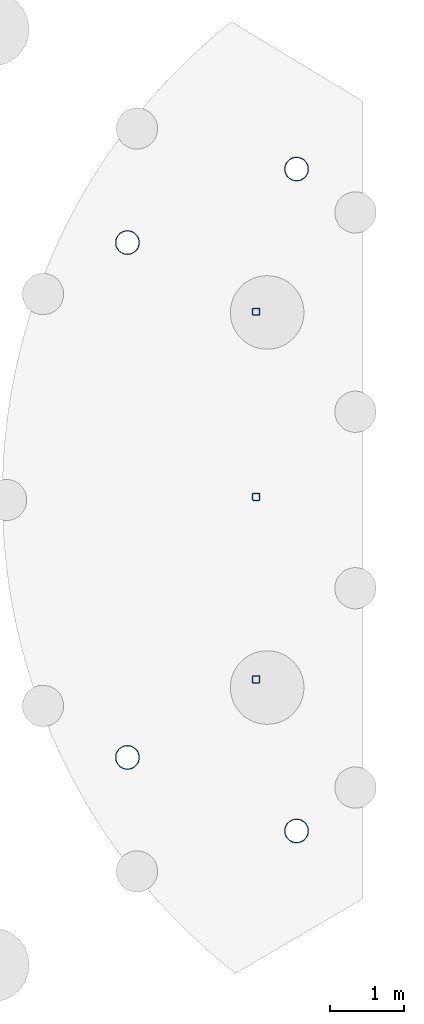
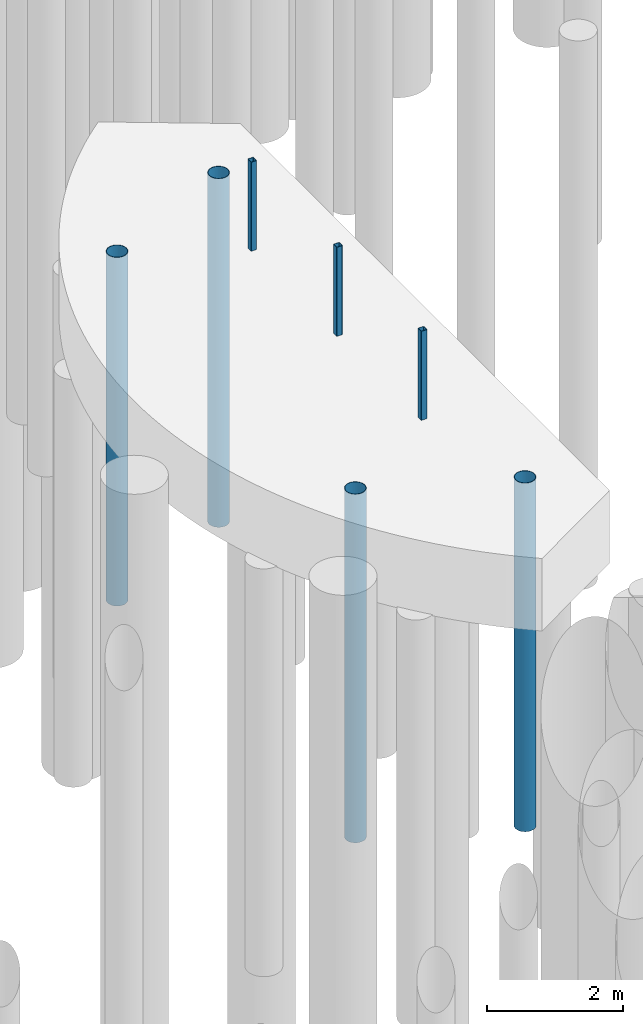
# One storey, part 9 of 104: 7 columns.
"""IFC2X3 building model written with IfcOpenShell, lengths in millimetres."""

import ifcopenshell
import ifcopenshell.guid

model = None  # the IFC model being written
_history = None  # IfcOwnerHistory: only IFC2X3 demands one
_inside = {}  # id of a spatial element -> (the spatial element, [elements in it])
_under = {}  # id of a project, library or spatial element -> (it, [spatial elements below it])
_declared = {}  # id of a project -> (the project, [libraries it declares])
_typed = {}  # id of a type object -> (the type object, [elements of that type])
_made_of = {}  # id of a material, layer set ... -> (it, [elements and type objects made of it])


def new_model(schema):
    """Start an empty IFC model of exactly this schema.

    Asked for "IFC4X3", IfcOpenShell would pick the latest addendum, in which some entities
    have other attributes; the version numbers below select the first issue.
    IFC2X3 requires an IfcOwnerHistory on every rooted entity: one is made here for all.
    """
    global model, _history
    if schema == "IFC4X3":
        model = ifcopenshell.file(schema_version=(4, 3, 0, 0))
    else:
        model = ifcopenshell.file(schema=schema)
    _inside.clear()
    _under.clear()
    _declared.clear()
    _typed.clear()
    _made_of.clear()
    _history = None
    if model.schema == "IFC2X3":
        org = make("IfcOrganization", Name="unknown")
        user = make(
            "IfcPersonAndOrganization",
            ThePerson=make("IfcPerson", FamilyName="unknown"),
            TheOrganization=org,
        )
        app = make(
            "IfcApplication",
            ApplicationDeveloper=org,
            Version="unknown",
            ApplicationFullName="unknown",
            ApplicationIdentifier="unknown",
        )
        _history = make(
            "IfcOwnerHistory",
            OwningUser=user,
            OwningApplication=app,
            ChangeAction="ADDED",
            CreationDate=0,
        )
    return model


def make(cls, **values):
    """One entity of the class cls with the attributes given. An attribute that is None is left unset."""
    return model.create_entity(
        cls, **{name: value for name, value in values.items() if value is not None}
    )


def entity(cls, *values):
    """Any entity or typed value of the class cls, its attributes in the order of the schema. None: left unset."""
    e = model.create_entity(cls)
    for i, value in enumerate(values):
        if value is not None:
            e[i] = value
    return e


def rooted(cls, **values):
    """An entity with a GlobalId (a new one), such as an element, a storey or a relation."""
    return make(cls, GlobalId=ifcopenshell.guid.new(), OwnerHistory=_history, **values)


def si_unit(unit_type, name, prefix=None):
    """IfcSIUnit, for example si_unit("LENGTHUNIT", "METRE", prefix="MILLI")."""
    return make("IfcSIUnit", UnitType=unit_type, Prefix=prefix, Name=name)


def converted_unit(unit_type, name, factor, base, dimensions=None, offset=None):
    """IfcConversionBasedUnit, such as the inch: factor (a typed value) times the base unit."""
    return make(
        "IfcConversionBasedUnit"
        if offset is None
        else "IfcConversionBasedUnitWithOffset",
        ConversionOffset=offset,
        Dimensions=None
        if dimensions is None
        else entity("IfcDimensionalExponents", *dimensions),
        UnitType=unit_type,
        Name=name,
        ConversionFactor=make(
            "IfcMeasureWithUnit", ValueComponent=factor, UnitComponent=base
        ),
    )


def derived_unit(unit_type, elements):
    """IfcDerivedUnit: a product of units, each with its exponent."""
    return make(
        "IfcDerivedUnit",
        Elements=[
            make("IfcDerivedUnitElement", Unit=unit, Exponent=power)
            for unit, power in elements
        ],
        UnitType=unit_type,
    )


def assignment(units):
    """IfcUnitAssignment: the units of a project."""
    return None if units is None else make("IfcUnitAssignment", Units=units)


def point(xyz):
    """IfcCartesianPoint."""
    return None if xyz is None else make("IfcCartesianPoint", Coordinates=xyz)


def direction(xyz):
    """IfcDirection."""
    return None if xyz is None else make("IfcDirection", DirectionRatios=xyz)


def frame(location, z_axis=None, x_axis=None):
    """IfcAxis2Placement3D, a coordinate frame: its origin and axes. An axis left out is left unset."""
    return make(
        "IfcAxis2Placement3D",
        Location=point(location),
        Axis=direction(z_axis),
        RefDirection=direction(x_axis),
    )


def frame_2d(location, x_axis=None):
    """IfcAxis2Placement2D, a coordinate frame in the plane: its origin and x axis."""
    return make(
        "IfcAxis2Placement2D", Location=point(location), RefDirection=direction(x_axis)
    )


def origin():
    """The frame at (0, 0, 0) with its axes left unset."""
    return frame((0.0, 0.0, 0.0))


def place(relative_to, where):
    """IfcLocalPlacement: puts the frame where relative to a parent placement (None: the world)."""
    return make(
        "IfcLocalPlacement", PlacementRelTo=relative_to, RelativePlacement=where
    )


def context(
    kind, dimensions, precision=None, world=None, true_north=None, identifier=None
):
    """IfcGeometricRepresentationContext, for example the 3D "Model" context."""
    return make(
        "IfcGeometricRepresentationContext",
        ContextIdentifier=identifier,
        ContextType=kind,
        CoordinateSpaceDimension=dimensions,
        Precision=precision,
        WorldCoordinateSystem=world,
        TrueNorth=true_north,
    )


def subcontext(parent, identifier, kind, view, scale=None):
    """IfcGeometricRepresentationSubContext, for example "Body" below "Model"."""
    return make(
        "IfcGeometricRepresentationSubContext",
        ContextIdentifier=identifier,
        ContextType=kind,
        ParentContext=parent,
        TargetScale=scale,
        TargetView=view,
    )


def project(units=None, contexts=None):
    """IfcProject with its units and contexts."""
    return rooted(
        "IfcProject",
        Name="project",
        RepresentationContexts=contexts,
        UnitsInContext=assignment(units),
    )


def spatial(cls, under=None, at=None, **own):
    """A site, building, storey or space (cls), placed at a placement, below another one or the project."""
    s = rooted(cls, ObjectPlacement=at, **own)
    if under is not None:
        _under.setdefault(under.id(), (under, []))[1].append(s)
    return s


def polyline(points):
    """IfcPolyline through the points."""
    return make("IfcPolyline", Points=[point(p) for p in points])


def circle_curve(where, radius):
    """IfcCircle in the frame where."""
    return make("IfcCircle", Position=where, Radius=radius)


def parameter(value):
    """IfcParameterValue: where a trimmed curve begins or ends, as a parameter of its basis curve."""
    return model.create_entity("IfcParameterValue", value)


def trimmed(basis, trim1, trim2, sense, master):
    """IfcTrimmedCurve: the piece of a basis curve between two trims."""
    return make(
        "IfcTrimmedCurve",
        BasisCurve=basis,
        Trim1=trim1,
        Trim2=trim2,
        SenseAgreement=sense,
        MasterRepresentation=master,
    )


def segment(curve, same_sense, transition):
    """IfcCompositeCurveSegment."""
    return make(
        "IfcCompositeCurveSegment",
        Transition=transition,
        SameSense=same_sense,
        ParentCurve=curve,
    )


def composite_curve(segments, self_intersect=None):
    """IfcCompositeCurve: segments joined end to end."""
    return make("IfcCompositeCurve", Segments=segments, SelfIntersect=self_intersect)


def profile(cls, at=None, kind="AREA", **sizes):
    """A parametric profile (cls). Its sizes go by their IFC names, for example OverallWidth=200.0."""
    return make(cls, ProfileType=kind, Position=at, **sizes)


def hollow_circle(**sizes):
    """IfcCircleHollowProfileDef."""
    return profile("IfcCircleHollowProfileDef", **sizes)


def outline(outer, holes=None, kind="AREA"):
    """IfcArbitraryClosedProfileDef: a profile drawn as a closed curve; with holes, ...WithVoids."""
    if holes is None:
        return make("IfcArbitraryClosedProfileDef", ProfileType=kind, OuterCurve=outer)
    return make(
        "IfcArbitraryProfileDefWithVoids",
        ProfileType=kind,
        OuterCurve=outer,
        InnerCurves=holes,
    )


def extrude(swept, where, along, depth):
    """IfcExtrudedAreaSolid: the profile swept, set in the frame where, extruded along a direction by depth."""
    return make(
        "IfcExtrudedAreaSolid",
        SweptArea=swept,
        Position=where,
        ExtrudedDirection=direction(along),
        Depth=depth,
    )


def shape(context_of_items, identifier, shape_type, items):
    """IfcShapeRepresentation: the items that make up one representation, for example the "Body"."""
    return make(
        "IfcShapeRepresentation",
        ContextOfItems=context_of_items,
        RepresentationIdentifier=identifier,
        RepresentationType=shape_type,
        Items=items,
    )


def source(mapping_origin, context_of_items, identifier, shape_type, items):
    """IfcRepresentationMap: a shape defined once, which mapped items show again and again."""
    return make(
        "IfcRepresentationMap",
        MappingOrigin=mapping_origin,
        MappedRepresentation=shape(context_of_items, identifier, shape_type, items),
    )


def transform(
    local_origin,
    x_axis=None,
    y_axis=None,
    z_axis=None,
    scale=None,
    scale2=None,
    scale3=None,
    uniform=True,
):
    """IfcCartesianTransformationOperator3D, or its non-uniform kind. x_axis, y_axis, z_axis: its Axis1, 2, 3."""
    if uniform:
        return make(
            "IfcCartesianTransformationOperator3D",
            Axis1=direction(x_axis),
            Axis2=direction(y_axis),
            LocalOrigin=point(local_origin),
            Scale=scale,
            Axis3=direction(z_axis),
        )
    return make(
        "IfcCartesianTransformationOperator3DnonUniform",
        Axis1=direction(x_axis),
        Axis2=direction(y_axis),
        LocalOrigin=point(local_origin),
        Scale=scale,
        Axis3=direction(z_axis),
        Scale2=scale2,
        Scale3=scale3,
    )


def mapped(mapping_source, mapping_target):
    """IfcMappedItem: shows the shape of a source again, moved by a transform."""
    return make(
        "IfcMappedItem", MappingSource=mapping_source, MappingTarget=mapping_target
    )


def material(Name=None, Category=None):
    """IfcMaterial."""
    return make("IfcMaterial", Name=Name, Category=Category)


def made_of(thing, what):
    """Note that an element or type object is made of a material, layer set ...; save() writes the relation."""
    if what is not None:
        _made_of.setdefault(what.id(), (what, []))[1].append(thing)
    return thing


def type_object(cls, material=None, **own):
    """A type object (cls), such as IfcWallType, which elements share."""
    return made_of(rooted(cls, **own), material)


def type_shapes(of_type, sources):
    """Give a type object the sources (RepresentationMaps) that its elements show as mapped items."""
    of_type.RepresentationMaps = sources


def element(
    cls,
    number,
    at=None,
    inside=None,
    cuts=None,
    type_object=None,
    material=None,
    context=None,
    identifier="Body",
    shape_type=None,
    held_by="IfcProductDefinitionShape",
    body=None,
    shapes=None,
    **own,
):
    """One element of the class cls, such as IfcWall. Its Tag is "e" and its number.

    at: its placement. inside: the storey or other place that contains it. cuts: it is an
    opening in that element (IfcRelVoidsElement). A single representation is given by context,
    identifier, shape_type and body (its items); several are given by shapes. held_by: the class
    of the entity that holds the representations. save() writes the other relations.
    """
    e = rooted(cls, Tag="e%d" % number, ObjectPlacement=at, **own)
    if body is not None:
        shapes = [shape(context, identifier, shape_type, body)]
    if shapes is not None:
        e.Representation = make(held_by, Representations=shapes)
    if inside is not None:
        _inside.setdefault(inside.id(), (inside, []))[1].append(e)
    if cuts is not None:
        rooted(
            "IfcRelVoidsElement", RelatingBuildingElement=cuts, RelatedOpeningElement=e
        )
    if type_object is not None:
        _typed.setdefault(type_object.id(), (type_object, []))[1].append(e)
    return made_of(e, material)


def aggregate(whole, parts):
    """IfcRelAggregates: a whole, such as a stair, and the parts it consists of."""
    return rooted("IfcRelAggregates", RelatingObject=whole, RelatedObjects=parts)


def save(model, path):
    """Write the relations noted so far, then the file.

    IfcRelAggregates (storeys below a building ...), IfcRelContainedInSpatialStructure (elements
    in a storey), IfcRelDefinesByType, IfcRelAssociatesMaterial and IfcRelDeclares: one each for
    every whole, place, type object, material and project.
    """
    for whole, parts in _under.values():
        aggregate(whole, parts)
    for where, things in _inside.values():
        rooted(
            "IfcRelContainedInSpatialStructure",
            RelatedElements=things,
            RelatingStructure=where,
        )
    for kind, things in _typed.values():
        rooted("IfcRelDefinesByType", RelatedObjects=things, RelatingType=kind)
    for what, things in _made_of.values():
        rooted("IfcRelAssociatesMaterial", RelatedObjects=things, RelatingMaterial=what)
    for by, libraries in _declared.values():
        rooted("IfcRelDeclares", RelatingContext=by, RelatedDefinitions=libraries)
    model.write(path)


model = new_model("IFC2X3")

# Units and contexts
model_context = context("Model", 3, precision=0.01, world=origin(), true_north=direction((6.12303176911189e-17, 1.0)))
body_context = subcontext(model_context, "Body", "Model", "MODEL_VIEW")
ifc_project = project(units=[si_unit("LENGTHUNIT", "METRE", prefix="MILLI"), si_unit("AREAUNIT", "SQUARE_METRE", prefix="MILLI"), si_unit("VOLUMEUNIT", "CUBIC_METRE"), converted_unit("PLANEANGLEUNIT", "DEGREE", entity("IfcRatioMeasure", 0.0174532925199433), si_unit("PLANEANGLEUNIT", "RADIAN"), dimensions=[0, 0, 0, 0, 0, 0, 0]), si_unit("MASSUNIT", "GRAM", prefix="KILO"), derived_unit("MASSDENSITYUNIT", [(si_unit("MASSUNIT", "GRAM", prefix="KILO"), 1), (si_unit("LENGTHUNIT", "METRE"), -3)]), derived_unit("MOMENTOFINERTIAUNIT", [(si_unit("LENGTHUNIT", "METRE"), 4)]), si_unit("TIMEUNIT", "SECOND"), si_unit("FREQUENCYUNIT", "HERTZ"), si_unit("THERMODYNAMICTEMPERATUREUNIT", "DEGREE_CELSIUS"), derived_unit("THERMALTRANSMITTANCEUNIT", [(si_unit("MASSUNIT", "GRAM", prefix="KILO"), 1), (si_unit("THERMODYNAMICTEMPERATUREUNIT", "KELVIN"), -1), (si_unit("TIMEUNIT", "SECOND"), -3)]), derived_unit("VOLUMETRICFLOWRATEUNIT", [(si_unit("LENGTHUNIT", "METRE"), 3), (si_unit("TIMEUNIT", "SECOND"), -1)]), si_unit("ELECTRICCURRENTUNIT", "AMPERE"), si_unit("ELECTRICVOLTAGEUNIT", "VOLT"), si_unit("POWERUNIT", "WATT"), si_unit("FORCEUNIT", "NEWTON", prefix="KILO"), si_unit("ILLUMINANCEUNIT", "LUX"), si_unit("LUMINOUSFLUXUNIT", "LUMEN"), si_unit("LUMINOUSINTENSITYUNIT", "CANDELA"), derived_unit("USERDEFINED", [(si_unit("MASSUNIT", "GRAM", prefix="KILO"), -1), (si_unit("LENGTHUNIT", "METRE"), -2), (si_unit("TIMEUNIT", "SECOND"), 3), (si_unit("LUMINOUSFLUXUNIT", "LUMEN"), 1)]), derived_unit("LINEARVELOCITYUNIT", [(si_unit("LENGTHUNIT", "METRE"), 1), (si_unit("TIMEUNIT", "SECOND"), -1)]), si_unit("PRESSUREUNIT", "PASCAL"), derived_unit("USERDEFINED", [(si_unit("LENGTHUNIT", "METRE"), -2), (si_unit("MASSUNIT", "GRAM", prefix="KILO"), 1), (si_unit("TIMEUNIT", "SECOND"), -2)]), derived_unit("LINEARFORCEUNIT", [(si_unit("MASSUNIT", "GRAM", prefix="KILO"), 1), (si_unit("LENGTHUNIT", "METRE"), 1), (si_unit("TIMEUNIT", "SECOND"), -2), (si_unit("LENGTHUNIT", "METRE"), -1)]), derived_unit("PLANARFORCEUNIT", [(si_unit("MASSUNIT", "GRAM", prefix="KILO"), 1), (si_unit("LENGTHUNIT", "METRE"), 1), (si_unit("TIMEUNIT", "SECOND"), -2), (si_unit("LENGTHUNIT", "METRE"), -2)])], contexts=[model_context])

# Site, building, storey
site_placement = place(None, origin())
site = spatial("IfcSite", under=ifc_project, at=site_placement, Name="Theater aan de Parade", CompositionType="ELEMENT")
building_placement = place(site_placement, origin())
building = spatial("IfcBuilding", under=site, at=building_placement, Name="Theater aan de Parade", CompositionType="ELEMENT")
storey_placement = place(building_placement, frame((0.0, 0.0, -5520.0)))
storey = spatial("IfcBuildingStorey", under=building, at=storey_placement, Name="-2 kelder", CompositionType="ELEMENT", Elevation=-5520.0)

# Columns
ifc_material_1 = material(Name="00_PBT_MAT_staal")
column_type_1 = type_object("IfcColumnType", Name="28_PBT_SC_staal_buis:B323.9x7.1_bestaand", PredefinedType="COLUMN", material=ifc_material_1)
shared_shape_1 = source(origin(), body_context, "Body", "SweptSolid", [
    extrude(hollow_circle(Radius=161.95, WallThickness=7.09999999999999, at=frame_2d((1.77837538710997e-15, -2.97621380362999e-13), x_axis=(1.0, 0.0))), frame((0.0, 0.0, -10770.0), z_axis=(0.0, 0.0, 1.0), x_axis=(-1.0, 0.0, 0.0)), (0.0, 0.0, 1.0), 6250.0),
])
type_shapes(column_type_1, [shared_shape_1])
for number, where, name in (
    (1, (68120.0, 36910.0, 5520.0), "28_PBT_SC_staal_buis:B323.9x7.1_bestaand"),
    (2, (65820.0, 35910.0, 5520.0), "28_PBT_SC_staal_buis:B323.9x7.1_bestaand"),
    (3, (65820.0, 28910.0, 5520.0), "28_PBT_SC_staal_buis:B323.9x7.1_bestaand"),
    (4, (68120.0, 27910.0, 5520.0), "28_PBT_SC_staal_buis:B323.9x7.1_bestaand"),
):
    element("IfcColumn", number, at=place(storey_placement, frame(where)), inside=storey, type_object=column_type_1, material=ifc_material_1, Name=name, ObjectType="28_PBT_SC_staal_buis:B323.9x7.1_bestaand", context=body_context, shape_type="MappedRepresentation", body=[
        mapped(shared_shape_1, transform((0.0, 0.0, 0.0), scale=1.0)),
    ])
ifc_material_2 = material(Name="00_PBT_MAT_staal_S355")
column_type_2 = type_object("IfcColumnType", Name="28_PBT_SC_staal_koker:S355_K100x100x6.3", PredefinedType="COLUMN", material=ifc_material_2)
shared_shape_2 = source(origin(), body_context, "Body", "SweptSolid", [
    extrude(outline(composite_curve([segment(trimmed(circle_curve(frame_2d((-40.5500000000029, -40.5499999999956), x_axis=(1.0, 0.0)), 9.45), [parameter(180.0)], [parameter(270.0)], True, "PARAMETER"), True, "CONTINUOUS"), segment(polyline([(-40.5500000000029, -50.0), (40.5500000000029, -50.0)]), True, "CONTINUOUS"), segment(trimmed(circle_curve(frame_2d((40.5500000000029, -40.5499999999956), x_axis=(1.0, 0.0)), 9.45), [parameter(270.0)], [parameter(0.0)], True, "PARAMETER"), True, "CONTINUOUS"), segment(polyline([(50.0, -40.5499999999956), (50.0, 40.5500000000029)]), True, "CONTINUOUS"), segment(trimmed(circle_curve(frame_2d((40.5500000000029, 40.5500000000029), x_axis=(1.0, 0.0)), 9.45), [parameter(3.56222124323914e-13)], [parameter(90.0000000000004)], True, "PARAMETER"), True, "CONTINUOUS"), segment(polyline([(40.5500000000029, 50.0), (-40.5500000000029, 50.0)]), True, "CONTINUOUS"), segment(trimmed(circle_curve(frame_2d((-40.5500000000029, 40.5500000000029), x_axis=(1.0, 0.0)), 9.45), [parameter(90.0)], [parameter(180.0)], True, "PARAMETER"), True, "CONTINUOUS"), segment(polyline([(-50.0, 40.5500000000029), (-50.0, -40.5499999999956)]), True, "CONTINUOUS")], self_intersect=False), holes=[composite_curve([segment(trimmed(circle_curve(frame_2d((37.4000000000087, 37.4000000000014), x_axis=(1.0, 0.0)), 6.3), [parameter(0.0)], [parameter(90.0000000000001)], True, "PARAMETER"), False, "CONTINUOUS"), segment(polyline([(43.6999999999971, 37.4000000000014), (43.6999999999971, -37.4000000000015)]), True, "CONTINUOUS"), segment(trimmed(circle_curve(frame_2d((37.4000000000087, -37.4000000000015), x_axis=(1.0, 0.0)), 6.3), [parameter(270.0)], [parameter(360.0)], True, "PARAMETER"), False, "CONTINUOUS"), segment(polyline([(37.4000000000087, -43.6999999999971), (-37.3999999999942, -43.6999999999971)]), True, "CONTINUOUS"), segment(trimmed(circle_curve(frame_2d((-37.3999999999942, -37.4000000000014), x_axis=(1.0, 0.0)), 6.3), [parameter(180.0)], [parameter(270.0)], True, "PARAMETER"), False, "CONTINUOUS"), segment(polyline([(-43.6999999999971, -37.4000000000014), (-43.6999999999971, 37.4000000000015)]), True, "CONTINUOUS"), segment(trimmed(circle_curve(frame_2d((-37.3999999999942, 37.4000000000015), x_axis=(1.0, 0.0)), 6.3), [parameter(89.9999999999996)], [parameter(180.0)], True, "PARAMETER"), False, "CONTINUOUS"), segment(polyline([(-37.3999999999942, 43.6999999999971), (37.4000000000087, 43.6999999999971)]), True, "CONTINUOUS")], self_intersect=False)]), frame((67570.0, 34970.0, -4520.0), z_axis=(0.0, 0.0, 1.0), x_axis=(-1.0, 0.0, 0.0)), (0.0, 0.0, 1.0), 1597.0),
])
type_shapes(column_type_2, [shared_shape_2])
column_1_placement = place(storey_placement, frame((0.0, 0.0, 5520.0)))
element("IfcColumn", 5, at=column_1_placement, inside=storey, type_object=column_type_2, material=ifc_material_2, Name="28_PBT_SC_staal_koker:S355_K100x100x6.3", ObjectType="28_PBT_SC_staal_koker:S355_K100x100x6.3", context=body_context, shape_type="MappedRepresentation", body=[
    mapped(shared_shape_2, transform((0.0, 0.0, 0.0), scale=1.0)),
])
column_type_3 = type_object("IfcColumnType", Name="28_PBT_SC_staal_koker:S355_K100x100x6.3", PredefinedType="COLUMN", material=ifc_material_2)
shared_shape_3 = source(origin(), body_context, "Body", "SweptSolid", [
    extrude(outline(composite_curve([segment(trimmed(circle_curve(frame_2d((-40.5500000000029, -40.5500000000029), x_axis=(1.0, 0.0)), 9.45), [parameter(180.0)], [parameter(270.0)], True, "PARAMETER"), True, "CONTINUOUS"), segment(polyline([(-40.5500000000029, -50.0), (40.5500000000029, -50.0)]), True, "CONTINUOUS"), segment(trimmed(circle_curve(frame_2d((40.5500000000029, -40.5500000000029), x_axis=(1.0, 0.0)), 9.45), [parameter(270.0)], [parameter(0.0)], True, "PARAMETER"), True, "CONTINUOUS"), segment(polyline([(50.0, -40.5500000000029), (50.0, 40.5499999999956)]), True, "CONTINUOUS"), segment(trimmed(circle_curve(frame_2d((40.5500000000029, 40.5499999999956), x_axis=(1.0, 0.0)), 9.45), [parameter(3.56222124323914e-13)], [parameter(90.0000000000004)], True, "PARAMETER"), True, "CONTINUOUS"), segment(polyline([(40.5500000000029, 50.0), (-40.5500000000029, 50.0)]), True, "CONTINUOUS"), segment(trimmed(circle_curve(frame_2d((-40.5500000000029, 40.5499999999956), x_axis=(1.0, 0.0)), 9.45), [parameter(90.0)], [parameter(180.0)], True, "PARAMETER"), True, "CONTINUOUS"), segment(polyline([(-50.0, 40.5499999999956), (-50.0, -40.5500000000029)]), True, "CONTINUOUS")], self_intersect=False), holes=[composite_curve([segment(trimmed(circle_curve(frame_2d((37.4000000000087, 37.3999999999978), x_axis=(1.0, 0.0)), 6.3), [parameter(0.0)], [parameter(90.0000000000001)], True, "PARAMETER"), False, "CONTINUOUS"), segment(polyline([(43.6999999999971, 37.3999999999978), (43.6999999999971, -37.4000000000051)]), True, "CONTINUOUS"), segment(trimmed(circle_curve(frame_2d((37.4000000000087, -37.4000000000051), x_axis=(1.0, 0.0)), 6.3), [parameter(270.0)], [parameter(360.0)], True, "PARAMETER"), False, "CONTINUOUS"), segment(polyline([(37.4000000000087, -43.7000000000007), (-37.3999999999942, -43.7000000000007)]), True, "CONTINUOUS"), segment(trimmed(circle_curve(frame_2d((-37.3999999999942, -37.4000000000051), x_axis=(1.0, 0.0)), 6.3), [parameter(180.0)], [parameter(270.0)], True, "PARAMETER"), False, "CONTINUOUS"), segment(polyline([(-43.6999999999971, -37.4000000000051), (-43.6999999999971, 37.3999999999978)]), True, "CONTINUOUS"), segment(trimmed(circle_curve(frame_2d((-37.3999999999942, 37.3999999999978), x_axis=(1.0, 0.0)), 6.3), [parameter(89.9999999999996)], [parameter(180.0)], True, "PARAMETER"), False, "CONTINUOUS"), segment(polyline([(-37.3999999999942, 43.6999999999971), (37.4000000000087, 43.6999999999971)]), True, "CONTINUOUS")], self_intersect=False)]), frame((67570.0, 32453.0, -4520.0), z_axis=(0.0, 0.0, 1.0), x_axis=(-1.0, 0.0, 0.0)), (0.0, 0.0, 1.0), 1597.0),
])
type_shapes(column_type_3, [shared_shape_3])
column_2_placement = place(storey_placement, frame((0.0, 0.0, 5520.0)))
element("IfcColumn", 6, at=column_2_placement, inside=storey, type_object=column_type_3, material=ifc_material_2, Name="28_PBT_SC_staal_koker:S355_K100x100x6.3", ObjectType="28_PBT_SC_staal_koker:S355_K100x100x6.3", context=body_context, shape_type="MappedRepresentation", body=[
    mapped(shared_shape_3, transform((0.0, 0.0, 0.0), scale=1.0)),
])
column_type_4 = type_object("IfcColumnType", Name="28_PBT_SC_staal_koker:S355_K100x100x6.3", PredefinedType="COLUMN", material=ifc_material_2)
shared_shape_4 = source(origin(), body_context, "Body", "SweptSolid", [
    extrude(outline(composite_curve([segment(trimmed(circle_curve(frame_2d((-40.5500000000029, -40.5499999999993), x_axis=(1.0, 0.0)), 9.45), [parameter(180.0)], [parameter(270.0)], True, "PARAMETER"), True, "CONTINUOUS"), segment(polyline([(-40.5500000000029, -50.0), (40.5500000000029, -50.0)]), True, "CONTINUOUS"), segment(trimmed(circle_curve(frame_2d((40.5499999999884, -40.5499999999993), x_axis=(1.0, 0.0)), 9.45), [parameter(270.0)], [parameter(0.0)], True, "PARAMETER"), True, "CONTINUOUS"), segment(polyline([(50.0, -40.5499999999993), (50.0, 40.5499999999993)]), True, "CONTINUOUS"), segment(trimmed(circle_curve(frame_2d((40.5499999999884, 40.5499999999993), x_axis=(1.0, 0.0)), 9.45), [parameter(3.56222124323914e-13)], [parameter(90.0000000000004)], True, "PARAMETER"), True, "CONTINUOUS"), segment(polyline([(40.5500000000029, 50.0), (-40.5500000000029, 50.0)]), True, "CONTINUOUS"), segment(trimmed(circle_curve(frame_2d((-40.5500000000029, 40.5499999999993), x_axis=(1.0, 0.0)), 9.45), [parameter(90.0)], [parameter(180.0)], True, "PARAMETER"), True, "CONTINUOUS"), segment(polyline([(-50.0, 40.5499999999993), (-50.0, -40.5499999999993)]), True, "CONTINUOUS")], self_intersect=False), holes=[composite_curve([segment(trimmed(circle_curve(frame_2d((37.3999999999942, 37.4000000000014), x_axis=(1.0, 0.0)), 6.3), [parameter(0.0)], [parameter(90.0000000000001)], True, "PARAMETER"), False, "CONTINUOUS"), segment(polyline([(43.6999999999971, 37.4000000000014), (43.6999999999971, -37.4000000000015)]), True, "CONTINUOUS"), segment(trimmed(circle_curve(frame_2d((37.3999999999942, -37.4000000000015), x_axis=(1.0, 0.0)), 6.3), [parameter(270.0)], [parameter(360.0)], True, "PARAMETER"), False, "CONTINUOUS"), segment(polyline([(37.3999999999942, -43.6999999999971), (-37.4000000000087, -43.6999999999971)]), True, "CONTINUOUS"), segment(trimmed(circle_curve(frame_2d((-37.4000000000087, -37.4000000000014), x_axis=(1.0, 0.0)), 6.3), [parameter(180.0)], [parameter(270.0)], True, "PARAMETER"), False, "CONTINUOUS"), segment(polyline([(-43.7000000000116, -37.4000000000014), (-43.7000000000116, 37.4000000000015)]), True, "CONTINUOUS"), segment(trimmed(circle_curve(frame_2d((-37.4000000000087, 37.4000000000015), x_axis=(1.0, 0.0)), 6.3), [parameter(89.9999999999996)], [parameter(180.0)], True, "PARAMETER"), False, "CONTINUOUS"), segment(polyline([(-37.4000000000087, 43.6999999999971), (37.3999999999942, 43.6999999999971)]), True, "CONTINUOUS")], self_intersect=False)]), frame((67570.0, 29970.0, -4520.0), z_axis=(0.0, 0.0, 1.0), x_axis=(-1.0, 0.0, 0.0)), (0.0, 0.0, 1.0), 1597.0),
])
type_shapes(column_type_4, [shared_shape_4])
column_3_placement = place(storey_placement, frame((0.0, 0.0, 5520.0)))
element("IfcColumn", 7, at=column_3_placement, inside=storey, type_object=column_type_4, material=ifc_material_2, Name="28_PBT_SC_staal_koker:S355_K100x100x6.3", ObjectType="28_PBT_SC_staal_koker:S355_K100x100x6.3", context=body_context, shape_type="MappedRepresentation", body=[
    mapped(shared_shape_4, transform((0.0, 0.0, 0.0), scale=1.0)),
])

save(model, "model.ifc")
